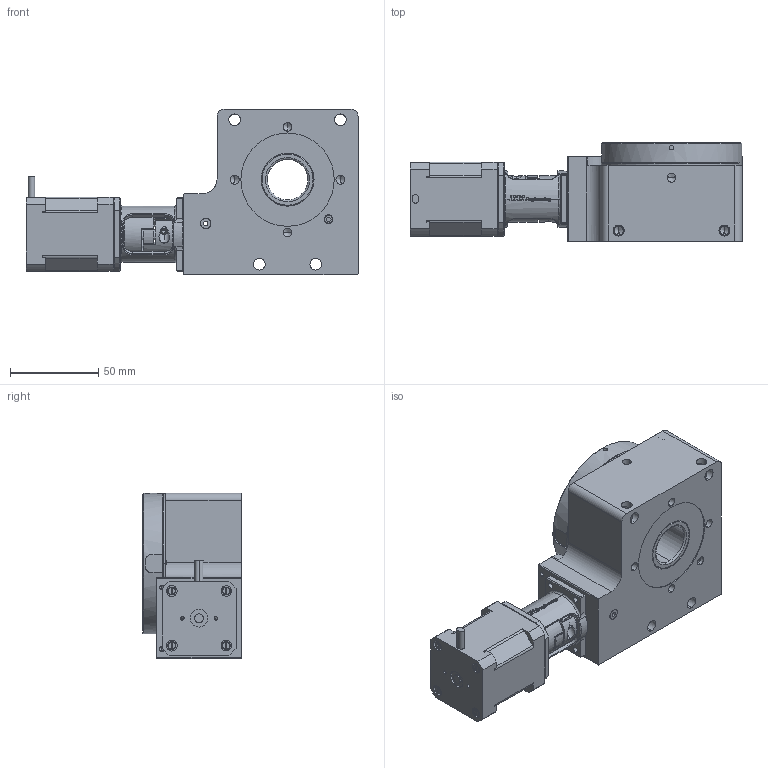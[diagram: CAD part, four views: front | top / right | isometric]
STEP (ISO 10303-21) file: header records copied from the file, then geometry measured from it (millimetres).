
FILE_DESCRIPTION (( 'STEP AP203' ), '1' );
FILE_NAME ('MDT36012-HP-ixx-AK-M.STEP', '2016-07-04T15:10:46', ( '' ), ( '' ), 'SwSTEP 2.0', 'SolidWorks 2016', '' );
FILE_SCHEMA (( 'CONFIG_CONTROL_DESIGN' ));
Length unit declared in the file: millimetre
Products named in the file (4): MDT36012-HP-000-01-Gehäuse-komplett_1; MDT36012-HP-000-02-Drehscheibe-komplett_1; NSM17-Schrittmotor_n_Standard; MDT36012-HP-ixx-AK-M
Assembly tree (3 placements, depth 2):
  MDT36012-HP-ixx-AK-M
    MDT36012-HP-000-01-Gehäuse-komplett_1
    MDT36012-HP-000-02-Drehscheibe-komplett_1
    NSM17-Schrittmotor_n_Standard
Bounding box: 188.5 x 56 x 94 mm (x, y, z)
Volume: 427264.3 mm3; surface area: 122306.4 mm2
Topology: 7 solids, 14 shells, 1515 faces, 4072 edges, 2589 vertices
Faces by surface type: cylinder 575, plane 377, bspline 362, cone 185, torus 16
Entity records: 71816 total; most frequent: CARTESIAN_POINT 35873, ORIENTED_EDGE 7996, DIRECTION 6456, EDGE_CURVE 3998, VERTEX_POINT 2589, AXIS2_PLACEMENT_3D 2358, LINE 1740, VECTOR 1740
